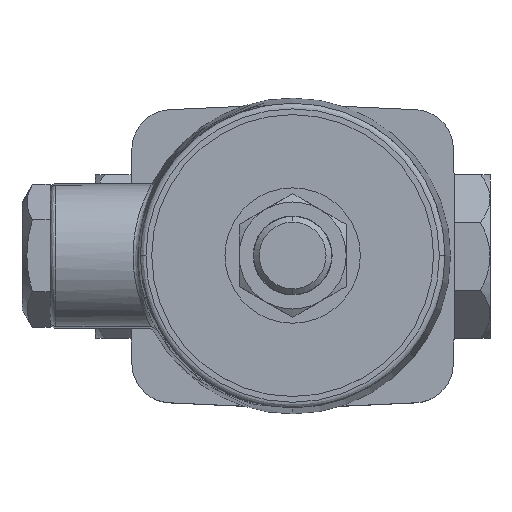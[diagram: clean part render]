
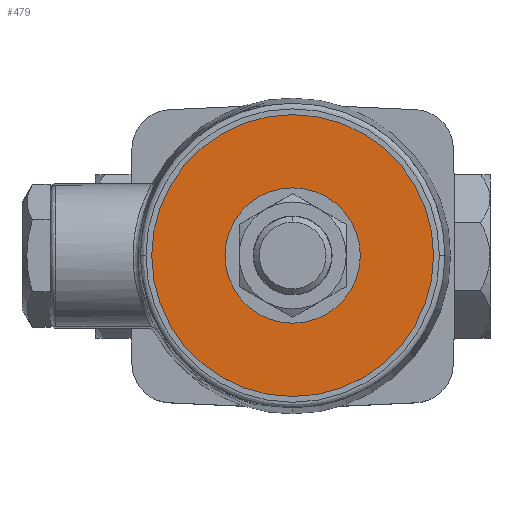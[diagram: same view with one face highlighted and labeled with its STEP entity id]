
A CAD part, top view. The second image highlights one B-rep face of the part: STEP entity #479.
In plain terms, the highlighted planar face has unit normal (0, 0, 1) as drawn and (0, -1, 0) by its records, which use the part's own axes.
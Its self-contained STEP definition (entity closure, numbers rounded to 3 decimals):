
#479=ADVANCED_FACE('',(#3456,#3457),#3455,.F.);
#3455=PLANE('',#6573);
#3456=FACE_OUTER_BOUND('',#6574,.T.);
#3457=FACE_BOUND('',#6575,.T.);
#6570=CARTESIAN_POINT('',(-51.962,3.6,-32.5));
#6571=DIRECTION('',(0.,1.,0.));
#6572=DIRECTION('',(0.,0.,1.));
#6573=AXIS2_PLACEMENT_3D('',#6570,#6571,#6572);
#6574=EDGE_LOOP('',(#8079,#8080));
#6575=EDGE_LOOP('',(#8081,#8082));
#8079=ORIENTED_EDGE('',*,*,#8865,.T.);
#8080=ORIENTED_EDGE('',*,*,#8866,.T.);
#8081=ORIENTED_EDGE('',*,*,#8867,.F.);
#8082=ORIENTED_EDGE('',*,*,#8868,.F.);
#8865=EDGE_CURVE('',#13590,#13591,#13592,.T.);
#8866=EDGE_CURVE('',#13591,#13590,#13598,.T.);
#8867=EDGE_CURVE('',#13604,#13605,#13606,.T.);
#8868=EDGE_CURVE('',#13605,#13604,#13612,.T.);
#13590=VERTEX_POINT('',#17398);
#13591=VERTEX_POINT('',#17399);
#13592=CIRCLE('',#17403,25.);
#13598=CIRCLE('',#17407,25.);
#13604=VERTEX_POINT('',#17408);
#13605=VERTEX_POINT('',#17409);
#13606=CIRCLE('',#17413,12.);
#13612=CIRCLE('',#17417,12.);
#17398=CARTESIAN_POINT('',(0.,3.6,-25.));
#17399=CARTESIAN_POINT('',(0.,3.6,25.));
#17400=CARTESIAN_POINT('',(0.,3.6,0.));
#17401=DIRECTION('',(0.,-1.,0.));
#17402=DIRECTION('',(0.,0.,-1.));
#17403=AXIS2_PLACEMENT_3D('',#17400,#17401,#17402);
#17404=CARTESIAN_POINT('',(0.,3.6,0.));
#17405=DIRECTION('',(0.,-1.,0.));
#17406=DIRECTION('',(0.,0.,-1.));
#17407=AXIS2_PLACEMENT_3D('',#17404,#17405,#17406);
#17408=CARTESIAN_POINT('',(0.,3.6,12.));
#17409=CARTESIAN_POINT('',(0.,3.6,-12.));
#17410=CARTESIAN_POINT('',(0.,3.6,0.));
#17411=DIRECTION('',(0.,-1.,0.));
#17412=DIRECTION('',(0.,0.,-1.));
#17413=AXIS2_PLACEMENT_3D('',#17410,#17411,#17412);
#17414=CARTESIAN_POINT('',(0.,3.6,0.));
#17415=DIRECTION('',(0.,-1.,0.));
#17416=DIRECTION('',(0.,0.,-1.));
#17417=AXIS2_PLACEMENT_3D('',#17414,#17415,#17416);
